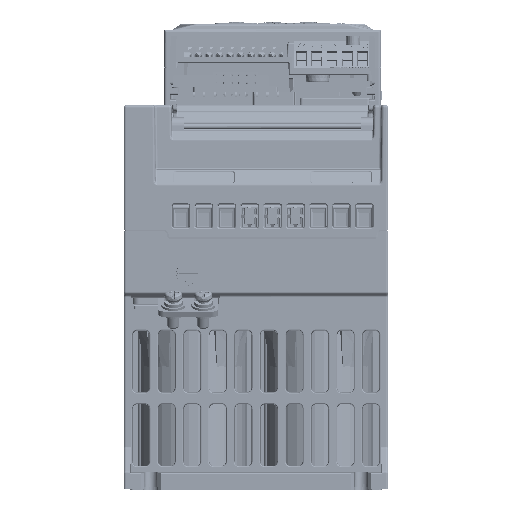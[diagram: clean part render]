
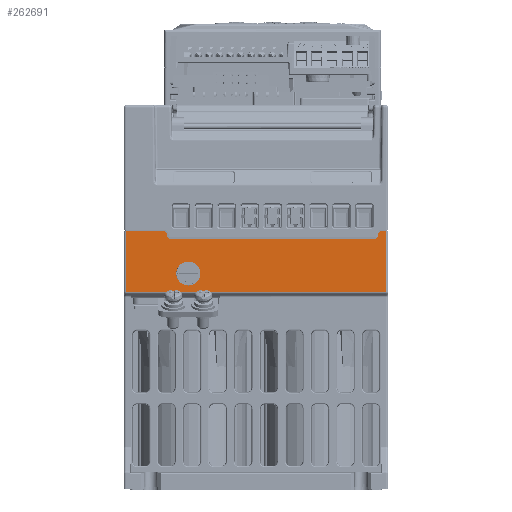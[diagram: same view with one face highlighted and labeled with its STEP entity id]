
A CAD part, front view. The second image highlights one B-rep face of the part: STEP entity #262691.
In plain terms, the highlighted planar face has unit normal (0, -1, 0).
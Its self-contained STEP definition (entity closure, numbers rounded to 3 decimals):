
#74435=CARTESIAN_POINT('',(-28.,-188.5,-56.));
#74436=DIRECTION('',(0.,-1.,0.));
#74437=DIRECTION('',(1.,0.,0.));
#74438=AXIS2_PLACEMENT_3D('',#74435,#74436,#74437);
#74443=CARTESIAN_POINT('',(-28.,-188.5,-56.));
#74444=DIRECTION('',(0.,-1.,0.));
#74445=DIRECTION('',(-1.,0.,0.));
#74446=AXIS2_PLACEMENT_3D('',#74443,#74444,#74445);
#74451=CARTESIAN_POINT('',(-36.007,-188.5,-42.8));
#74452=DIRECTION('',(0.,-1.,0.));
#74453=DIRECTION('',(0.966,0.,0.259));
#74454=AXIS2_PLACEMENT_3D('',#74451,#74452,#74453);
#74459=DIRECTION('',(0.259,0.,-0.966));
#74460=VECTOR('',#74459,1.257);
#74461=CARTESIAN_POINT('',(-35.234,-188.5,-42.593));
#74462=LINE('',#74461,#74460);
#74466=DIRECTION('',(1.,0.,0.));
#74467=VECTOR('',#74466,68.272);
#74468=CARTESIAN_POINT('',(-34.136,-188.5,-44.4));
#74469=LINE('',#74468,#74467);
#74473=DIRECTION('',(-0.259,0.,-0.966));
#74474=VECTOR('',#74473,1.257);
#74475=CARTESIAN_POINT('',(35.234,-188.5,-42.593));
#74476=LINE('',#74475,#74474);
#74480=CARTESIAN_POINT('',(36.007,-188.5,-42.8));
#74481=DIRECTION('',(0.,-1.,0.));
#74482=DIRECTION('',(0.,0.,1.));
#74483=AXIS2_PLACEMENT_3D('',#74480,#74481,#74482);
#74488=DIRECTION('',(-1.,0.,0.));
#74489=VECTOR('',#74488,1.693);
#74490=CARTESIAN_POINT('',(37.7,-188.5,-42.));
#74491=LINE('',#74490,#74489);
#74495=DIRECTION('',(0.,0.,1.));
#74496=VECTOR('',#74495,20.169);
#74497=CARTESIAN_POINT('',(37.7,-188.5,-62.169));
#74498=LINE('',#74497,#74496);
#74502=DIRECTION('',(1.,0.,0.));
#74503=VECTOR('',#74502,86.4);
#74504=CARTESIAN_POINT('',(-48.7,-188.5,-62.169));
#74505=LINE('',#74504,#74503);
#74509=DIRECTION('',(0.,0.,1.));
#74510=VECTOR('',#74509,20.169);
#74511=CARTESIAN_POINT('',(-48.7,-188.5,-62.169));
#74512=LINE('',#74511,#74510);
#74516=DIRECTION('',(-1.,0.,0.));
#74517=VECTOR('',#74516,12.693);
#74518=CARTESIAN_POINT('',(-36.007,-188.5,-42.));
#74519=LINE('',#74518,#74517);
#74944=CARTESIAN_POINT('',(-34.136,-188.5,-43.6));
#74945=DIRECTION('',(0.,1.,0.));
#74946=DIRECTION('',(0.,0.,-1.));
#74947=AXIS2_PLACEMENT_3D('',#74944,#74945,#74946);
#92463=CARTESIAN_POINT('',(34.136,-188.5,-43.6));
#92464=DIRECTION('',(0.,1.,0.));
#92465=DIRECTION('',(0.966,0.,-0.259));
#92466=AXIS2_PLACEMENT_3D('',#92463,#92464,#92465);
#167728=CARTESIAN_POINT('',(-24.,-188.5,-56.));
#167729=CARTESIAN_POINT('',(-32.,-188.5,-56.));
#167730=VERTEX_POINT('',#167728);
#167731=VERTEX_POINT('',#167729);
#169583=CARTESIAN_POINT('',(37.7,-188.5,-42.));
#169585=VERTEX_POINT('',#169583);
#169589=CARTESIAN_POINT('',(37.7,-188.5,-62.169));
#169590=VERTEX_POINT('',#169589);
#169597=CARTESIAN_POINT('',(-48.7,-188.5,-62.169));
#169598=VERTEX_POINT('',#169597);
#169599=CARTESIAN_POINT('',(-48.7,-188.5,-42.));
#169600=VERTEX_POINT('',#169599);
#170358=CARTESIAN_POINT('',(-34.136,-188.5,-44.4));
#170359=CARTESIAN_POINT('',(34.136,-188.5,-44.4));
#170360=VERTEX_POINT('',#170358);
#170361=VERTEX_POINT('',#170359);
#170364=CARTESIAN_POINT('',(-34.909,-188.5,-43.807));
#170365=VERTEX_POINT('',#170364);
#170370=CARTESIAN_POINT('',(-35.234,-188.5,-42.593));
#170371=CARTESIAN_POINT('',(-36.007,-188.5,-42.));
#170372=VERTEX_POINT('',#170370);
#170373=VERTEX_POINT('',#170371);
#170382=CARTESIAN_POINT('',(36.007,-188.5,-42.));
#170383=VERTEX_POINT('',#170382);
#170385=CARTESIAN_POINT('',(34.909,-188.5,-43.807));
#170386=VERTEX_POINT('',#170385);
#170387=CARTESIAN_POINT('',(35.234,-188.5,-42.593));
#170388=VERTEX_POINT('',#170387);
#262659=CARTESIAN_POINT('',(0.,-188.5,-42.));
#262660=DIRECTION('',(0.,-1.,0.));
#262661=DIRECTION('',(1.,0.,0.));
#262662=AXIS2_PLACEMENT_3D('',#262659,#262660,#262661);
#262663=PLANE('',#262662);
#262664=ORIENTED_EDGE('',*,*,#248266,.F.);
#262666=ORIENTED_EDGE('',*,*,#262665,.T.);
#262668=ORIENTED_EDGE('',*,*,#262667,.F.);
#262670=ORIENTED_EDGE('',*,*,#262669,.T.);
#262672=ORIENTED_EDGE('',*,*,#262671,.F.);
#262674=ORIENTED_EDGE('',*,*,#262673,.F.);
#262676=ORIENTED_EDGE('',*,*,#262675,.F.);
#262677=ORIENTED_EDGE('',*,*,#248112,.F.);
#262679=ORIENTED_EDGE('',*,*,#262678,.F.);
#262680=ORIENTED_EDGE('',*,*,#262577,.F.);
#262681=ORIENTED_EDGE('',*,*,#262602,.T.);
#262682=ORIENTED_EDGE('',*,*,#248216,.F.);
#262683=EDGE_LOOP('',(#262664,#262666,#262668,#262670,#262672,#262674,#262676,
#262677,#262679,#262680,#262681,#262682));
#262684=FACE_OUTER_BOUND('',#262683,.F.);
#262686=ORIENTED_EDGE('',*,*,#262685,.T.);
#262688=ORIENTED_EDGE('',*,*,#262687,.T.);
#262689=EDGE_LOOP('',(#262686,#262688));
#262690=FACE_BOUND('',#262689,.F.);
#262691=ADVANCED_FACE('',(#262684,#262690),#262663,.T.);
#74439=CIRCLE('',#74438,4.);
#74447=CIRCLE('',#74446,4.);
#74455=CIRCLE('',#74454,0.8);
#74484=CIRCLE('',#74483,0.8);
#74948=CIRCLE('',#74947,0.8);
#92467=CIRCLE('',#92466,0.8);
#248112=EDGE_CURVE('',#169585,#170383,#74491,.T.);
#248216=EDGE_CURVE('',#170373,#169600,#74519,.T.);
#248266=EDGE_CURVE('',#170372,#170373,#74455,.T.);
#262577=EDGE_CURVE('',#169598,#169590,#74505,.T.);
#262602=EDGE_CURVE('',#169598,#169600,#74512,.T.);
#262665=EDGE_CURVE('',#170372,#170365,#74462,.T.);
#262667=EDGE_CURVE('',#170360,#170365,#74948,.T.);
#262669=EDGE_CURVE('',#170360,#170361,#74469,.T.);
#262671=EDGE_CURVE('',#170386,#170361,#92467,.T.);
#262673=EDGE_CURVE('',#170388,#170386,#74476,.T.);
#262675=EDGE_CURVE('',#170383,#170388,#74484,.T.);
#262678=EDGE_CURVE('',#169590,#169585,#74498,.T.);
#262685=EDGE_CURVE('',#167730,#167731,#74439,.T.);
#262687=EDGE_CURVE('',#167731,#167730,#74447,.T.);
